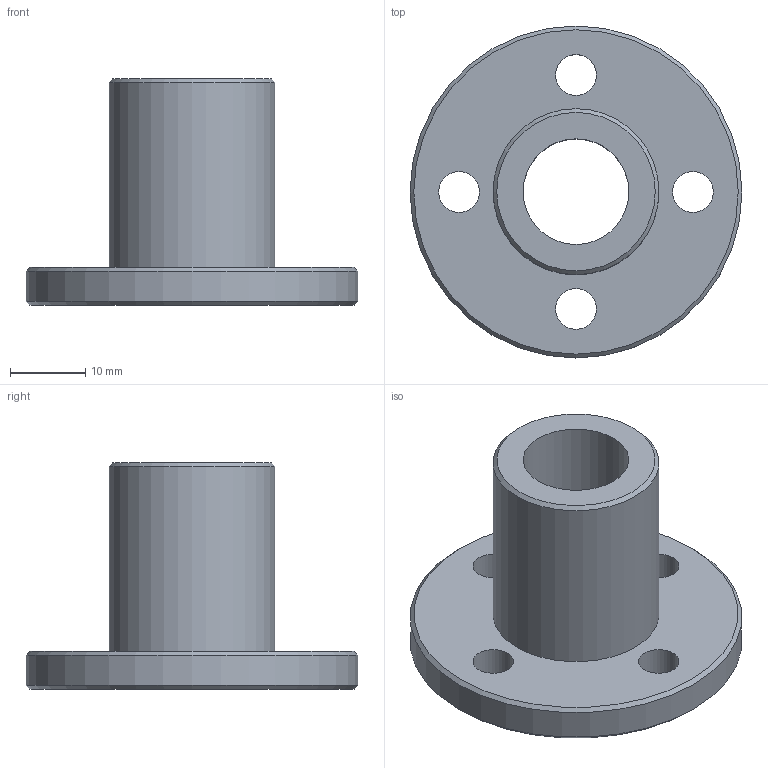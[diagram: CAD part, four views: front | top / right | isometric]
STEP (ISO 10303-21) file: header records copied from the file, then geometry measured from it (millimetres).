
FILE_DESCRIPTION(('STEP AP203'),'1');
FILE_NAME('//192.168.1.1/share/s-4 技術開発/s-4-4_CAD/s-4-4-3_見直し済み/018 修正済み/TMFON/TMFON_TOP/TMFON-14R.step','2022-02-08T05:49:55',(' '),(' '),'Spatial InterOp 3D',' ',' ');
FILE_SCHEMA(('CONFIG_CONTROL_DESIGN'));
Length unit declared in the file: millimetre
Products named in the file (1): 1
Bounding box: 44 x 44 x 30 mm (x, y, z)
Volume: 11987 mm3; surface area: 6525.6 mm2
Topology: 1 solids, 1 shells, 13 faces, 27 edges, 17 vertices
Faces by surface type: cylinder 7, plane 3, cone 3
Full cylindrical faces by diameter (mm): 5.4 x4, 14 x1, 22 x1, 44 x1
Entity records: 368 total; most frequent: DIRECTION 62, CARTESIAN_POINT 48, EDGE_LOOP 34, ORIENTED_EDGE 34, AXIS2_PLACEMENT_3D 31, FACE_OUTER_BOUND 20, EDGE_CURVE 17, VERTEX_POINT 17
